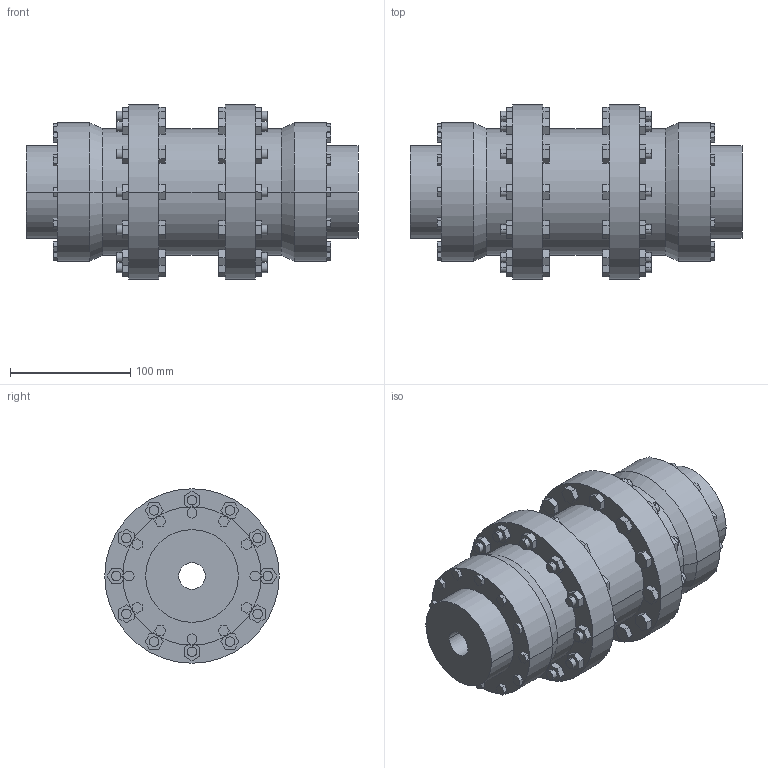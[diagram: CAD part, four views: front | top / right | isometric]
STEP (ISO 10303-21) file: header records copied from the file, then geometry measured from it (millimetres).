
FILE_DESCRIPTION((''),'2;1');
FILE_NAME('A19027900-0_ASM','2018-10-17T',('AB_Roschiwal'),('RENK AG'),'PRO/ENGINEER BY PARAMETRIC TECHNOLOGY CORPORATION, 2015440','PRO/ENGINEER BY PARAMETRIC TECHNOLOGY CORPORATION, 2015440','');
FILE_SCHEMA(('CONFIG_CONTROL_DESIGN'));
Length unit declared in the file: millimetre
Products named in the file (3): SBLK48_GEHAEUSE; SBLK48_NABE; A19027900-0_ASM
Assembly tree (3 placements, depth 2):
  A19027900-0_ASM
    SBLK48_GEHAEUSE
    SBLK48_NABE  x2
Bounding box: 276 x 145 x 145 mm (x, y, z)
Volume: 1684049.2 mm3; surface area: 285410.7 mm2
Topology: 3 solids, 3 shells, 632 faces, 1552 edges, 1032 vertices
Faces by surface type: plane 544, cylinder 84, cone 4
Entity records: 18164 total; most frequent: CARTESIAN_POINT 3170, ORIENTED_EDGE 3056, DIRECTION 2932, EDGE_CURVE 1528, VECTOR 1376, LINE 1376, VERTEX_POINT 1016, AXIS2_PLACEMENT_3D 778
